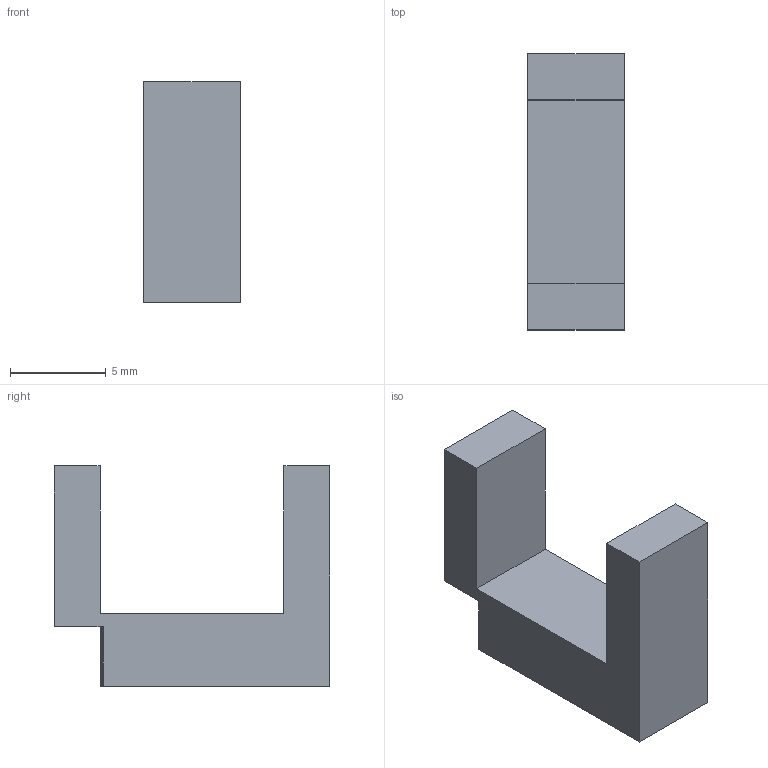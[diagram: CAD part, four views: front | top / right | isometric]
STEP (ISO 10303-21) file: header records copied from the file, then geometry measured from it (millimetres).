
FILE_DESCRIPTION(('Open CASCADE Model'),'2;1');
FILE_NAME('Open CASCADE Shape Model','2026-09-15T13:54:40',('Author'),( 'Open CASCADE'),'Open CASCADE STEP processor 7.7','Open CASCADE 7.7' ,'Unknown');
FILE_SCHEMA(('AUTOMOTIVE_DESIGN { 1 0 10303 214 1 1 1 1 }'));
Length unit declared in the file: millimetre
Products named in the file (1): SOLID
Bounding box: 5.05 x 14.4 x 11.5 mm (x, y, z)
Volume: 421.4 mm3; surface area: 507.9 mm2
Topology: 1 solids, 1 shells, 16 faces, 42 edges, 28 vertices
Faces by surface type: plane 14, cylinder 2
Entity records: 1026 total; most frequent: CARTESIAN_POINT 191, DIRECTION 144, LINE 98, VECTOR 98, ORIENTED_EDGE 84, PCURVE 84, DEFINITIONAL_REPRESENTATION 84, EDGE_CURVE 42
